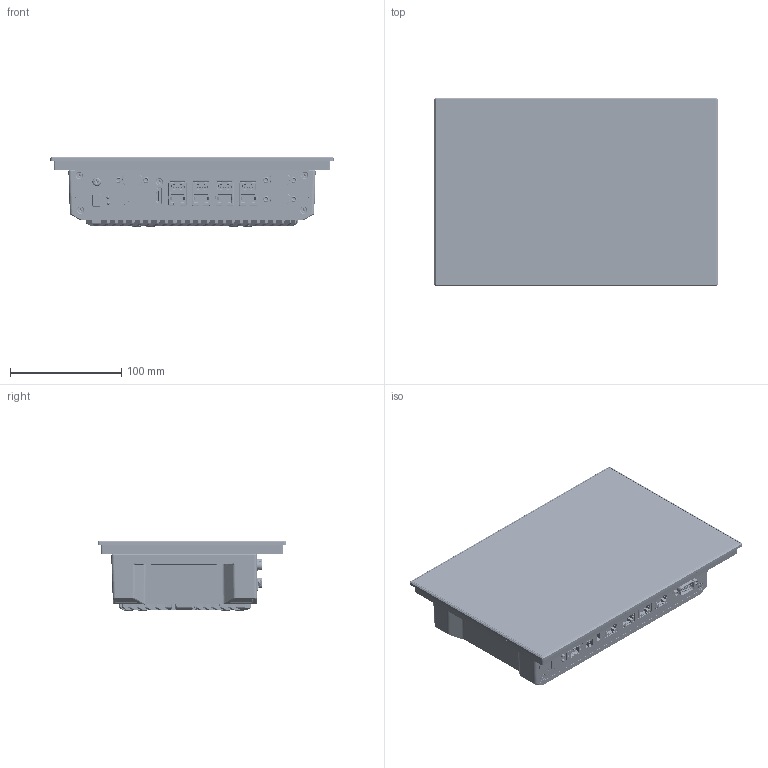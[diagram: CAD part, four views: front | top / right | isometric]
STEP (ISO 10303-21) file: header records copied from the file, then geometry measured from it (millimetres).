
FILE_DESCRIPTION((''),'2;1');
FILE_NAME('PRT0004','2023-12-13T11:11:34',('yangxiaobing6'),(''),'CREO PARAMETRIC BY PTC INC, 2020044','CREO PARAMETRIC BY PTC INC, 2020044','');
FILE_SCHEMA(('CONFIG_CONTROL_DESIGN','SHAPE_APPEARANCE_LAYERS_GROUPS'));
Products named in the file (1): PRT0004
Bounding box: 254.97 x 169.97 x 63 mm (x, y, z)
Volume: 1616506.1 mm3; surface area: 346565.6 mm2
Topology: 5 solids, 157 shells, 15225 faces, 42175 edges, 26796 vertices
Faces by surface type: plane 8697, cylinder 4572, bspline 1019, cone 459, torus 352, sphere 74, extrusion 52
Entity records: 704806 total; most frequent: CARTESIAN_POINT 223268, ORIENTED_EDGE 82986, DIRECTION 74342, EDGE_CURVE 41880, VECTOR 28072, LINE 28020, VERTEX_POINT 26798, AXIS2_PLACEMENT_3D 23135
